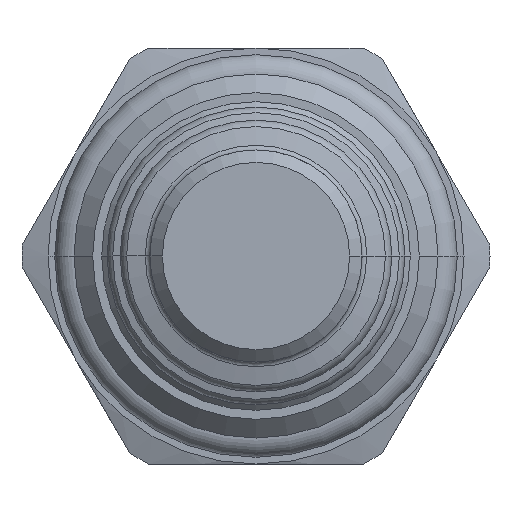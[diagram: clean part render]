
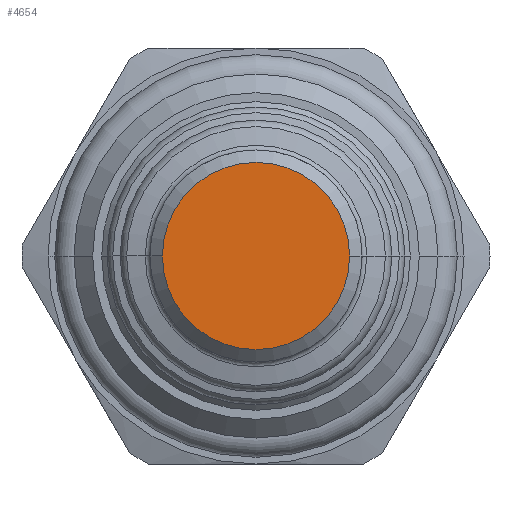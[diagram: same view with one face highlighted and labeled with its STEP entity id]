
A CAD part, front view. The second image highlights one B-rep face of the part: STEP entity #4654.
In plain terms, the highlighted planar face has unit normal (0, -1, 0).
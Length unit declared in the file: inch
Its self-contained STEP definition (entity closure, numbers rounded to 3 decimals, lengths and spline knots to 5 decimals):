
#1531=CARTESIAN_POINT('',(0.,-2.323,0.));
#1532=DIRECTION('',(0.,1.,0.));
#1533=DIRECTION('',(-1.,0.,0.));
#1534=AXIS2_PLACEMENT_3D('',#1531,#1532,#1533);
#1536=CARTESIAN_POINT('',(0.,-2.323,0.));
#1537=DIRECTION('',(0.,1.,0.));
#1538=DIRECTION('',(0.,0.,1.));
#1539=AXIS2_PLACEMENT_3D('',#1536,#1537,#1538);
#1541=CARTESIAN_POINT('',(0.,-2.323,0.));
#1542=DIRECTION('',(0.,1.,0.));
#1543=DIRECTION('',(1.,0.,0.));
#1544=AXIS2_PLACEMENT_3D('',#1541,#1542,#1543);
#1546=CARTESIAN_POINT('',(0.,-2.323,0.));
#1547=DIRECTION('',(0.,1.,0.));
#1548=DIRECTION('',(0.,0.,-1.));
#1549=AXIS2_PLACEMENT_3D('',#1546,#1547,#1548);
#2356=CARTESIAN_POINT('',(-0.225,-2.323,0.));
#2357=VERTEX_POINT('',#2356);
#2358=CARTESIAN_POINT('',(0.225,-2.323,0.));
#2359=CARTESIAN_POINT('',(0.,-2.323,-0.225));
#2360=VERTEX_POINT('',#2358);
#2361=VERTEX_POINT('',#2359);
#2362=CARTESIAN_POINT('',(0.,-2.323,0.225));
#2363=VERTEX_POINT('',#2362);
#4643=CARTESIAN_POINT('',(0.,-2.323,0.));
#4644=DIRECTION('',(0.,-1.,0.));
#4645=DIRECTION('',(-1.,0.,0.));
#4646=AXIS2_PLACEMENT_3D('',#4643,#4644,#4645);
#4647=PLANE('',#4646);
#4648=ORIENTED_EDGE('',*,*,#4637,.T.);
#4649=ORIENTED_EDGE('',*,*,#4635,.T.);
#4650=ORIENTED_EDGE('',*,*,#4620,.T.);
#4651=ORIENTED_EDGE('',*,*,#4618,.T.);
#4652=EDGE_LOOP('',(#4648,#4649,#4650,#4651));
#4653=FACE_OUTER_BOUND('',#4652,.F.);
#4654=ADVANCED_FACE('',(#4653),#4647,.T.);
#1535=CIRCLE('',#1534,0.225);
#1540=CIRCLE('',#1539,0.225);
#1545=CIRCLE('',#1544,0.225);
#1550=CIRCLE('',#1549,0.225);
#4618=EDGE_CURVE('',#2361,#2357,#1550,.T.);
#4620=EDGE_CURVE('',#2360,#2361,#1545,.T.);
#4635=EDGE_CURVE('',#2363,#2360,#1540,.T.);
#4637=EDGE_CURVE('',#2357,#2363,#1535,.T.);
